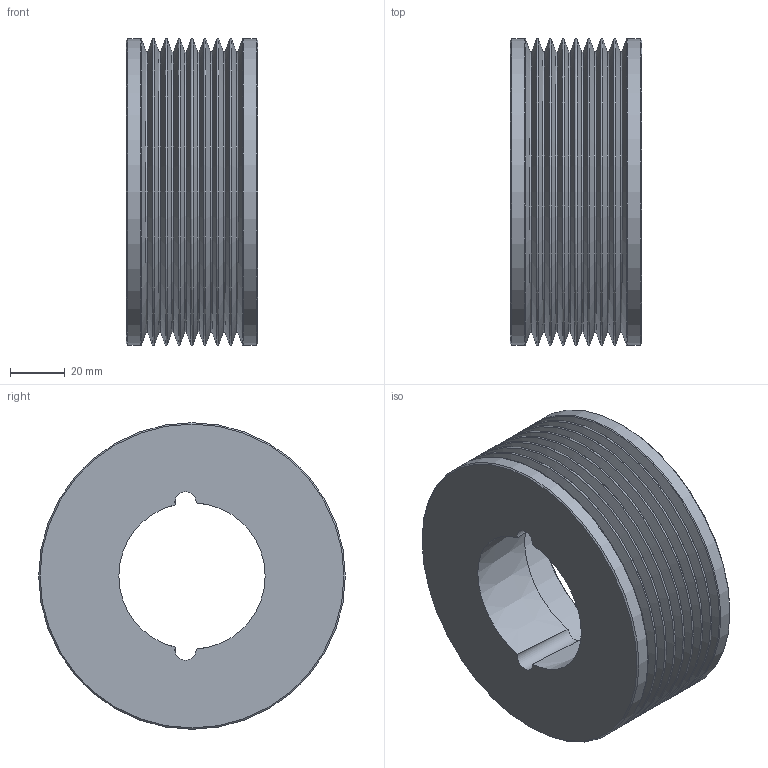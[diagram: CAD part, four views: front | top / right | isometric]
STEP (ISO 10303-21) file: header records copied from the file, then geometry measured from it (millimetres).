
FILE_DESCRIPTION(/* description */ (''),/* implementation_level */ '2;1');
FILE_NAME(/* name */ 'C:\Users\stagistacad\Desktop\48208112.stp',/* time_stamp */ '2018-06-14T09:20:53+02:00',/* author */ ('stagistacad'),/* organization */ (''),/* preprocessor_version */ 'ST-DEVELOPER v15.6',/* originating_system */ 'Autodesk Inventor 2015',/* authorisation */ '');
FILE_SCHEMA (('AUTOMOTIVE_DESIGN { 1 0 10303 214 3 1 1 }'));
Length unit declared in the file: millimetre
Products named in the file (1): 48208112
Bounding box: 48 x 112 x 112 mm (x, y, z)
Volume: 243660.9 mm3; surface area: 59368.7 mm2
Topology: 1 solids, 1 shells, 49 faces, 100 edges, 54 vertices
Faces by surface type: cone 22, torus 18, cylinder 6, plane 3
Full cylindrical faces by diameter (mm): 88 x1, 112 x2
Entity records: 1128 total; most frequent: CARTESIAN_POINT 215, DIRECTION 206, ORIENTED_EDGE 120, AXIS2_PLACEMENT_3D 103, EDGE_LOOP 92, EDGE_CURVE 60, VERTEX_POINT 54, CIRCLE 53
